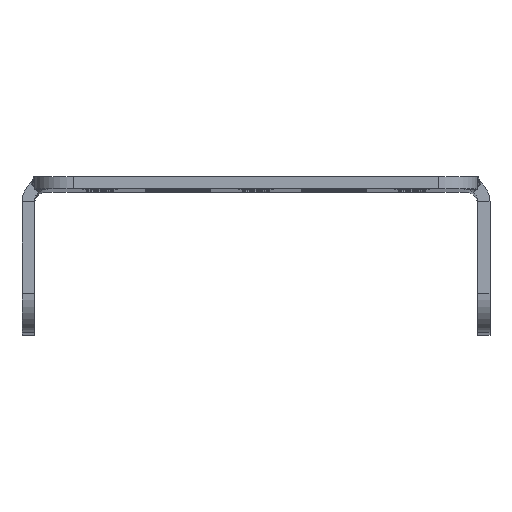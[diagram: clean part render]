
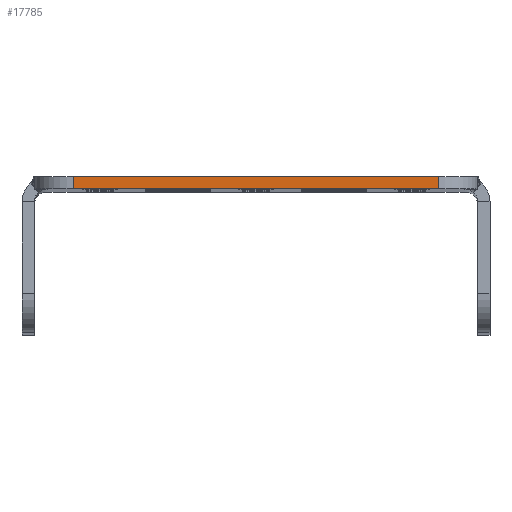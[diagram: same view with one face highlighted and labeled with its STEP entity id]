
A CAD part, top view. The second image highlights one B-rep face of the part: STEP entity #17785.
In plain terms, the highlighted planar face has unit normal (0, 0, 1).
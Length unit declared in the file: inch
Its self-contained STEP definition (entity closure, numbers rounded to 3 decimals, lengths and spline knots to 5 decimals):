
#4608=DIRECTION('',(0.,1.,0.));
#4609=VECTOR('',#4608,0.078);
#4610=CARTESIAN_POINT('',(1.14838,-0.078,11.811));
#4611=LINE('',#4610,#4609);
#4615=DIRECTION('',(-1.,0.,0.));
#4616=VECTOR('',#4615,2.29676);
#4617=CARTESIAN_POINT('',(1.14838,-0.078,11.811));
#4618=LINE('',#4617,#4616);
#4622=DIRECTION('',(0.,1.,0.));
#4623=VECTOR('',#4622,0.078);
#4624=CARTESIAN_POINT('',(-1.14838,-0.078,11.811));
#4625=LINE('',#4624,#4623);
#4629=DIRECTION('',(-1.,0.,0.));
#4630=VECTOR('',#4629,2.29676);
#4631=CARTESIAN_POINT('',(1.14838,0.,11.811));
#4632=LINE('',#4631,#4630);
#13239=CARTESIAN_POINT('',(1.14838,0.,11.811));
#13241=VERTEX_POINT('',#13239);
#13245=CARTESIAN_POINT('',(1.14838,-0.078,11.811));
#13246=VERTEX_POINT('',#13245);
#13256=CARTESIAN_POINT('',(-1.14838,0.,11.811));
#13258=VERTEX_POINT('',#13256);
#13259=CARTESIAN_POINT('',(-1.14838,-0.078,11.811));
#13260=VERTEX_POINT('',#13259);
#17773=CARTESIAN_POINT('',(0.,-0.039,11.811));
#17774=DIRECTION('',(0.,0.,-1.));
#17775=DIRECTION('',(-1.,0.,0.));
#17776=AXIS2_PLACEMENT_3D('',#17773,#17774,#17775);
#17777=PLANE('',#17776);
#17779=ORIENTED_EDGE('',*,*,#17778,.F.);
#17780=ORIENTED_EDGE('',*,*,#16773,.T.);
#17781=ORIENTED_EDGE('',*,*,#17766,.T.);
#17782=ORIENTED_EDGE('',*,*,#15546,.F.);
#17783=EDGE_LOOP('',(#17779,#17780,#17781,#17782));
#17784=FACE_OUTER_BOUND('',#17783,.F.);
#15546=EDGE_CURVE('',#13241,#13258,#4632,.T.);
#16773=EDGE_CURVE('',#13246,#13260,#4618,.T.);
#17766=EDGE_CURVE('',#13260,#13258,#4625,.T.);
#17778=EDGE_CURVE('',#13246,#13241,#4611,.T.);
#17785=ADVANCED_FACE('',(#17784),#17777,.F.);
